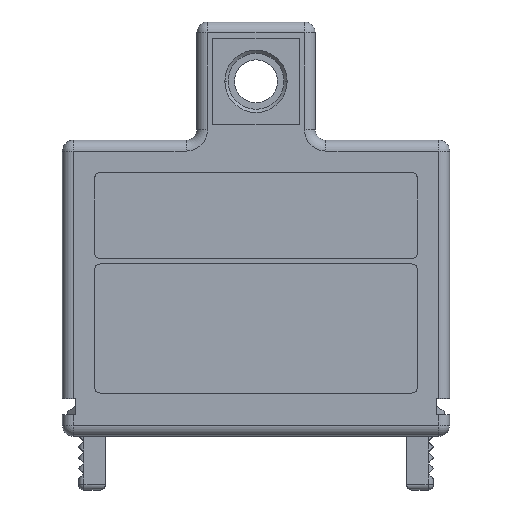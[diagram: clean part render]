
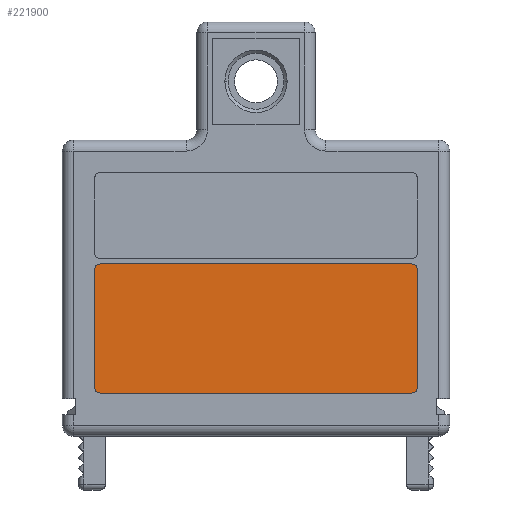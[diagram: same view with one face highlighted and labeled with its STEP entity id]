
A CAD part, top view. The second image highlights one B-rep face of the part: STEP entity #221900.
In plain terms, the highlighted planar face has unit normal (0, 0, 1).
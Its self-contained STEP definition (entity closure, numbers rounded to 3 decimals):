
#215620=CARTESIAN_POINT('',(43.474,34.797,-0.3));
#215630=VERTEX_POINT('',#215620);
#215660=CARTESIAN_POINT('',(43.974,34.797,-0.3));
#215670=DIRECTION('',(0.,0.,-1.));
#215680=DIRECTION('',(-1.,0.,0.));
#215690=AXIS2_PLACEMENT_3D('',#215660,#215670,#215680);
#215700=CIRCLE('',#215690,0.5);
#215710=CARTESIAN_POINT('',(43.974,34.297,-0.3));
#215720=VERTEX_POINT('',#215710);
#215730=EDGE_CURVE('',#215720,#215630,#215700,.T.);
#216440=CARTESIAN_POINT('',(43.974,46.297,-0.3));
#216450=VERTEX_POINT('',#216440);
#216480=CARTESIAN_POINT('',(43.974,45.797,-0.3));
#216490=DIRECTION('',(0.,0.,-1.));
#216500=DIRECTION('',(-1.,0.,0.));
#216510=AXIS2_PLACEMENT_3D('',#216480,#216490,#216500);
#216520=CIRCLE('',#216510,0.5);
#216530=CARTESIAN_POINT('',(43.474,45.797,-0.3));
#216540=VERTEX_POINT('',#216530);
#216550=EDGE_CURVE('',#216540,#216450,#216520,.T.);
#218980=CARTESIAN_POINT('',(72.974,34.797,-0.3));
#218990=DIRECTION('',(0.,0.,-1.));
#219000=DIRECTION('',(-1.,0.,0.));
#219010=AXIS2_PLACEMENT_3D('',#218980,#218990,#219000);
#219020=CIRCLE('',#219010,0.5);
#219030=CARTESIAN_POINT('',(73.474,34.797,-0.3));
#219040=VERTEX_POINT('',#219030);
#219050=CARTESIAN_POINT('',(72.974,34.297,-0.3));
#219060=VERTEX_POINT('',#219050);
#219070=EDGE_CURVE('',#219040,#219060,#219020,.T.);
#220920=CARTESIAN_POINT('',(43.474,0.,-0.3));
#220930=DIRECTION('',(0.,-1.,0.));
#220940=VECTOR('',#220930,1.);
#220950=LINE('',#220920,#220940);
#220960=EDGE_CURVE('',#216540,#215630,#220950,.T.);
#221090=CARTESIAN_POINT('',(0.,46.297,-0.3));
#221100=DIRECTION('',(-1.,0.,0.));
#221110=VECTOR('',#221100,1.);
#221120=LINE('',#221090,#221110);
#221130=CARTESIAN_POINT('',(72.974,46.297,-0.3));
#221140=VERTEX_POINT('',#221130);
#221150=EDGE_CURVE('',#221140,#216450,#221120,.T.);
#221350=CARTESIAN_POINT('',(73.474,0.,-0.3));
#221360=DIRECTION('',(0.,1.,0.));
#221370=VECTOR('',#221360,1.);
#221380=LINE('',#221350,#221370);
#221390=CARTESIAN_POINT('',(73.474,45.797,-0.3));
#221400=VERTEX_POINT('',#221390);
#221410=EDGE_CURVE('',#219040,#221400,#221380,.T.);
#221570=CARTESIAN_POINT('',(0.,34.297,-0.3));
#221580=DIRECTION('',(1.,0.,0.));
#221590=VECTOR('',#221580,1.);
#221600=LINE('',#221570,#221590);
#221610=EDGE_CURVE('',#215720,#219060,#221600,.T.);
#221690=CARTESIAN_POINT('',(0.,0.,-0.3));
#221700=DIRECTION('',(0.,0.,1.));
#221710=DIRECTION('',(1.,0.,0.));
#221720=AXIS2_PLACEMENT_3D('',#221690,#221700,#221710);
#221730=PLANE('',#221720);
#221740=ORIENTED_EDGE('',*,*,#215730,.F.);
#221750=ORIENTED_EDGE('',*,*,#220960,.T.);
#221760=ORIENTED_EDGE('',*,*,#216550,.F.);
#221770=ORIENTED_EDGE('',*,*,#221150,.T.);
#221780=CARTESIAN_POINT('',(72.974,45.797,-0.3));
#221790=DIRECTION('',(0.,0.,-1.));
#221800=DIRECTION('',(-1.,0.,0.));
#221810=AXIS2_PLACEMENT_3D('',#221780,#221790,#221800);
#221820=CIRCLE('',#221810,0.5);
#221830=EDGE_CURVE('',#221140,#221400,#221820,.T.);
#221840=ORIENTED_EDGE('',*,*,#221830,.F.);
#221850=ORIENTED_EDGE('',*,*,#221410,.T.);
#221860=ORIENTED_EDGE('',*,*,#219070,.F.);
#221870=ORIENTED_EDGE('',*,*,#221610,.T.);
#221880=EDGE_LOOP('',(#221870,#221860,#221850,#221840,#221770,#221760,
#221750,#221740));
#221890=FACE_OUTER_BOUND('',#221880,.T.);
#221900=ADVANCED_FACE('',(#221890),#221730,.T.);
